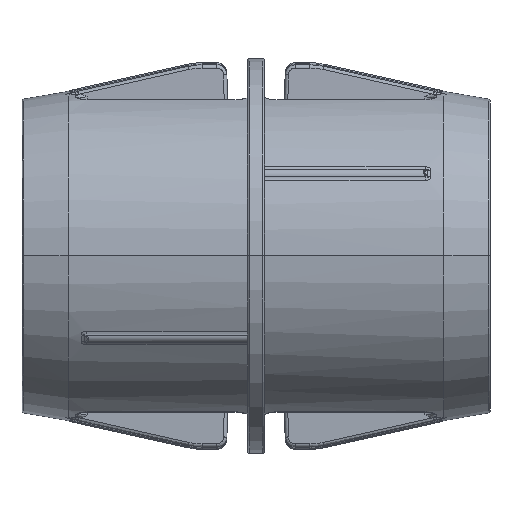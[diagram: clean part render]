
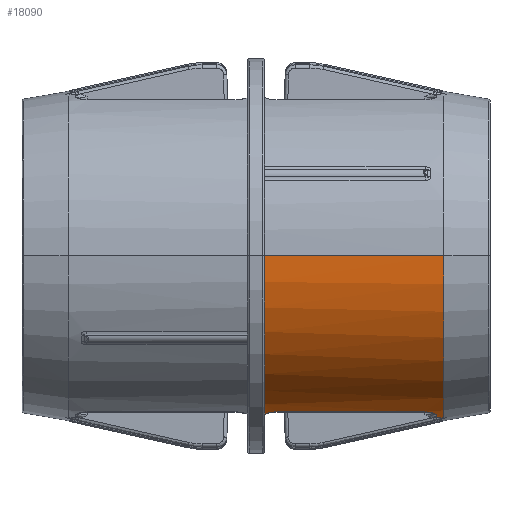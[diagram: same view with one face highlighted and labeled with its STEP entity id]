
A CAD part, top view. The second image highlights one B-rep face of the part: STEP entity #18090.
In plain terms, the highlighted cylindrical face has radius 20.25 mm (diameter 40.5 mm), a partial arc.
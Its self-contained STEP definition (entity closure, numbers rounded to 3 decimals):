
#380 = CARTESIAN_POINT ( 'NONE',  ( 22.167, -19.859, 3.959 ) ) ;
#485 = B_SPLINE_CURVE_WITH_KNOTS ( 'NONE', 3,
 ( #12324, #1466, #4711, #8042, #11059, #19136, #12639, #12843 ),
 .UNSPECIFIED., .F., .F.,
 ( 4, 2, 2, 4 ),
 ( 0., 0., 0., 0. ),
 .UNSPECIFIED. ) ;
#496 = VERTEX_POINT ( 'NONE', #14885 ) ;
#585 = VERTEX_POINT ( 'NONE', #20224 ) ;
#614 = LINE ( 'NONE', #13875, #14497 ) ;
#1073 = CARTESIAN_POINT ( 'NONE',  ( 21.822, -19.857, 3.969 ) ) ;
#1143 = CARTESIAN_POINT ( 'NONE',  ( 2.436, -19.164, 6.541 ) ) ;
#1265 = CARTESIAN_POINT ( 'NONE',  ( 21.348, -19.199, 6.441 ) ) ;
#1385 = CYLINDRICAL_SURFACE ( 'NONE', #6144, 20.25 ) ;
#1466 = CARTESIAN_POINT ( 'NONE',  ( 22.77, -19.877, 3.868 ) ) ;
#1722 = EDGE_CURVE ( 'NONE', #5992, #9117, #485, .T. ) ;
#1943 = EDGE_CURVE ( 'NONE', #4887, #19420, #13650, .T. ) ;
#2335 = CARTESIAN_POINT ( 'NONE',  ( -64.007, 0., 20.25 ) ) ;
#2384 = ORIENTED_EDGE ( 'NONE', *, *, #20043, .F. ) ;
#2560 = CARTESIAN_POINT ( 'NONE',  ( 23.079, 0., 20.25 ) ) ;
#2611 = CARTESIAN_POINT ( 'NONE',  ( 1.863, -19.211, 6.403 ) ) ;
#2818 = CARTESIAN_POINT ( 'NONE',  ( 2.003, -19.194, 6.455 ) ) ;
#2945 = CARTESIAN_POINT ( 'NONE',  ( 22.167, -19.859, 3.959 ) ) ;
#3900 = ORIENTED_EDGE ( 'NONE', *, *, #5319, .T. ) ;
#4005 = DIRECTION ( 'NONE',  ( 0., 0., 1. ) ) ;
#4499 = CARTESIAN_POINT ( 'NONE',  ( 22., -19.392, 5.84 ) ) ;
#4711 = CARTESIAN_POINT ( 'NONE',  ( 22.836, -19.881, 3.849 ) ) ;
#4887 = VERTEX_POINT ( 'NONE', #14088 ) ;
#4964 = CARTESIAN_POINT ( 'NONE',  ( -64.007, -19.857, 3.969 ) ) ;
#4988 = CARTESIAN_POINT ( 'NONE',  ( 20.75, -19.164, 6.541 ) ) ;
#5018 = CARTESIAN_POINT ( 'NONE',  ( 22.079, -19.73, 4.564 ) ) ;
#5319 = EDGE_CURVE ( 'NONE', #18751, #17566, #10447, .T. ) ;
#5485 = B_SPLINE_CURVE_WITH_KNOTS ( 'NONE', 3,
 ( #7513, #13904, #1265, #12414, #4499, #10848, #9801, #5018, #6472, #14624, #13050, #14422 ),
 .UNSPECIFIED., .F., .F.,
 ( 4, 2, 2, 2, 2, 4 ),
 ( 0., 0.001, 0.002, 0.003, 0.003, 0.004 ),
 .UNSPECIFIED. ) ;
#5534 = CARTESIAN_POINT ( 'NONE',  ( 1.07, -19.407, 5.781 ) ) ;
#5872 = VECTOR ( 'NONE', #16137, 1000. ) ;
#5992 = VERTEX_POINT ( 'NONE', #9877 ) ;
#6011 = VERTEX_POINT ( 'NONE', #4988 ) ;
#6038 = EDGE_CURVE ( 'NONE', #11297, #5992, #17065, .T. ) ;
#6099 = DIRECTION ( 'NONE',  ( -1., 0., 0. ) ) ;
#6144 = AXIS2_PLACEMENT_3D ( 'NONE', #14444, #9212, #19057 ) ;
#6183 = CARTESIAN_POINT ( 'NONE',  ( 21.938, -19.857, 3.969 ) ) ;
#6472 = CARTESIAN_POINT ( 'NONE',  ( 22.018, -19.761, 4.426 ) ) ;
#6841 = CIRCLE ( 'NONE', #16194, 20.25 ) ;
#6874 = EDGE_CURVE ( 'NONE', #8200, #6011, #614, .T. ) ;
#7019 = DIRECTION ( 'NONE',  ( -1., 0., 0. ) ) ;
#7196 = CARTESIAN_POINT ( 'NONE',  ( 2.29, -19.17, 6.524 ) ) ;
#7222 = CARTESIAN_POINT ( 'NONE',  ( 21.822, -19.857, 3.969 ) ) ;
#7227 = DIRECTION ( 'NONE',  ( -1., 0., 0. ) ) ;
#7234 = ORIENTED_EDGE ( 'NONE', *, *, #14837, .T. ) ;
#7513 = CARTESIAN_POINT ( 'NONE',  ( 20.75, -19.164, 6.541 ) ) ;
#7764 = DIRECTION ( 'NONE',  ( 0., 0., 1. ) ) ;
#7974 = AXIS2_PLACEMENT_3D ( 'NONE', #11725, #7019, #4005 ) ;
#8042 = CARTESIAN_POINT ( 'NONE',  ( 22.933, -19.888, 3.811 ) ) ;
#8060 = FACE_OUTER_BOUND ( 'NONE', #11840, .T. ) ;
#8200 = VERTEX_POINT ( 'NONE', #16135 ) ;
#8241 = CARTESIAN_POINT ( 'NONE',  ( 21.817, -19.857, 3.969 ) ) ;
#9117 = VERTEX_POINT ( 'NONE', #9657 ) ;
#9212 = DIRECTION ( 'NONE',  ( -1., 0., 0. ) ) ;
#9657 = CARTESIAN_POINT ( 'NONE',  ( 23.079, -19.905, 3.721 ) ) ;
#9760 = ORIENTED_EDGE ( 'NONE', *, *, #6874, .T. ) ;
#9801 = CARTESIAN_POINT ( 'NONE',  ( 22.194, -19.629, 4.985 ) ) ;
#9877 = CARTESIAN_POINT ( 'NONE',  ( 22.703, -19.874, 3.885 ) ) ;
#10053 = ORIENTED_EDGE ( 'NONE', *, *, #11469, .F. ) ;
#10105 = CARTESIAN_POINT ( 'NONE',  ( 21.812, -19.857, 3.969 ) ) ;
#10297 = CARTESIAN_POINT ( 'NONE',  ( 1.07, 0., 0. ) ) ;
#10320 = CARTESIAN_POINT ( 'NONE',  ( 1.48, -19.281, 6.19 ) ) ;
#10447 = LINE ( 'NONE', #2335, #13568 ) ;
#10704 = ORIENTED_EDGE ( 'NONE', *, *, #20315, .T. ) ;
#10848 = CARTESIAN_POINT ( 'NONE',  ( 22.185, -19.549, 5.289 ) ) ;
#10878 = B_SPLINE_CURVE_WITH_KNOTS ( 'NONE', 3,
 ( #1073, #6183, #17149, #2945 ),
 .UNSPECIFIED., .F., .F.,
 ( 4, 4 ),
 ( 0., 0. ),
 .UNSPECIFIED. ) ;
#11059 = CARTESIAN_POINT ( 'NONE',  ( 22.965, -19.891, 3.797 ) ) ;
#11297 = VERTEX_POINT ( 'NONE', #16767 ) ;
#11469 = EDGE_CURVE ( 'NONE', #4887, #496, #19296, .T. ) ;
#11725 = CARTESIAN_POINT ( 'NONE',  ( 23.079, 0., 0. ) ) ;
#11840 = EDGE_LOOP ( 'NONE', ( #16031, #3900, #2384, #7234, #9760, #14804, #10053, #13824, #10704, #18962, #18026 ) ) ;
#12324 = CARTESIAN_POINT ( 'NONE',  ( 22.703, -19.874, 3.885 ) ) ;
#12414 = CARTESIAN_POINT ( 'NONE',  ( 21.825, -19.315, 6.086 ) ) ;
#12639 = CARTESIAN_POINT ( 'NONE',  ( 23.055, -19.901, 3.746 ) ) ;
#12843 = CARTESIAN_POINT ( 'NONE',  ( 23.079, -19.905, 3.721 ) ) ;
#13025 = EDGE_CURVE ( 'NONE', #6011, #496, #5485, .T. ) ;
#13050 = CARTESIAN_POINT ( 'NONE',  ( 21.759, -19.838, 4.065 ) ) ;
#13053 = CARTESIAN_POINT ( 'NONE',  ( 21.807, -19.857, 3.969 ) ) ;
#13568 = VECTOR ( 'NONE', #7227, 1000. ) ;
#13650 = B_SPLINE_CURVE_WITH_KNOTS ( 'NONE', 3,
 ( #13053, #10105, #8241, #17866 ),
 .UNSPECIFIED., .F., .F.,
 ( 4, 4 ),
 ( 0., 0. ),
 .UNSPECIFIED. ) ;
#13824 = ORIENTED_EDGE ( 'NONE', *, *, #1943, .T. ) ;
#13875 = CARTESIAN_POINT ( 'NONE',  ( -64.007, -19.164, 6.541 ) ) ;
#13890 = CARTESIAN_POINT ( 'NONE',  ( 1.257, -19.34, 6.002 ) ) ;
#13904 = CARTESIAN_POINT ( 'NONE',  ( 21.054, -19.164, 6.541 ) ) ;
#13909 = B_SPLINE_CURVE_WITH_KNOTS ( 'NONE', 3,
 ( #5534, #18289, #13890, #10320, #16920, #2611, #2818, #7196, #1143, #16805 ),
 .UNSPECIFIED., .F., .F.,
 ( 4, 2, 2, 2, 4 ),
 ( 0., 0., 0.001, 0.001, 0.002 ),
 .UNSPECIFIED. ) ;
#14088 = CARTESIAN_POINT ( 'NONE',  ( 21.807, -19.857, 3.969 ) ) ;
#14209 = CARTESIAN_POINT ( 'NONE',  ( 1.07, 0., 20.25 ) ) ;
#14422 = CARTESIAN_POINT ( 'NONE',  ( 21.643, -19.857, 3.969 ) ) ;
#14444 = CARTESIAN_POINT ( 'NONE',  ( -64.007, 0., 0. ) ) ;
#14492 = CARTESIAN_POINT ( 'NONE',  ( 22.348, -19.862, 3.948 ) ) ;
#14497 = VECTOR ( 'NONE', #15541, 1000. ) ;
#14599 = CARTESIAN_POINT ( 'NONE',  ( 22.527, -19.866, 3.928 ) ) ;
#14624 = CARTESIAN_POINT ( 'NONE',  ( 21.859, -19.815, 4.178 ) ) ;
#14804 = ORIENTED_EDGE ( 'NONE', *, *, #13025, .T. ) ;
#14837 = EDGE_CURVE ( 'NONE', #585, #8200, #13909, .T. ) ;
#14885 = CARTESIAN_POINT ( 'NONE',  ( 21.643, -19.857, 3.969 ) ) ;
#15357 = EDGE_CURVE ( 'NONE', #9117, #18751, #16312, .T. ) ;
#15541 = DIRECTION ( 'NONE',  ( 1., 0., 0. ) ) ;
#16031 = ORIENTED_EDGE ( 'NONE', *, *, #15357, .T. ) ;
#16135 = CARTESIAN_POINT ( 'NONE',  ( 2.586, -19.164, 6.541 ) ) ;
#16137 = DIRECTION ( 'NONE',  ( -1., 0., 0. ) ) ;
#16194 = AXIS2_PLACEMENT_3D ( 'NONE', #10297, #6099, #7764 ) ;
#16312 = CIRCLE ( 'NONE', #7974, 20.25 ) ;
#16767 = CARTESIAN_POINT ( 'NONE',  ( 22.167, -19.859, 3.959 ) ) ;
#16805 = CARTESIAN_POINT ( 'NONE',  ( 2.586, -19.164, 6.541 ) ) ;
#16920 = CARTESIAN_POINT ( 'NONE',  ( 1.603, -19.255, 6.271 ) ) ;
#17065 = B_SPLINE_CURVE_WITH_KNOTS ( 'NONE', 3,
 ( #380, #14492, #14599, #19412 ),
 .UNSPECIFIED., .F., .F.,
 ( 4, 4 ),
 ( 0., 0.001 ),
 .UNSPECIFIED. ) ;
#17149 = CARTESIAN_POINT ( 'NONE',  ( 22.053, -19.858, 3.966 ) ) ;
#17566 = VERTEX_POINT ( 'NONE', #14209 ) ;
#17866 = CARTESIAN_POINT ( 'NONE',  ( 21.822, -19.857, 3.969 ) ) ;
#18026 = ORIENTED_EDGE ( 'NONE', *, *, #1722, .T. ) ;
#18090 = ADVANCED_FACE ( 'NONE', ( #8060 ), #1385, .T. ) ;
#18289 = CARTESIAN_POINT ( 'NONE',  ( 1.157, -19.373, 5.897 ) ) ;
#18751 = VERTEX_POINT ( 'NONE', #2560 ) ;
#18962 = ORIENTED_EDGE ( 'NONE', *, *, #6038, .T. ) ;
#19057 = DIRECTION ( 'NONE',  ( 0., 0., 1. ) ) ;
#19136 = CARTESIAN_POINT ( 'NONE',  ( 23.025, -19.897, 3.765 ) ) ;
#19296 = LINE ( 'NONE', #4964, #5872 ) ;
#19412 = CARTESIAN_POINT ( 'NONE',  ( 22.703, -19.874, 3.885 ) ) ;
#19420 = VERTEX_POINT ( 'NONE', #7222 ) ;
#20043 = EDGE_CURVE ( 'NONE', #585, #17566, #6841, .T. ) ;
#20224 = CARTESIAN_POINT ( 'NONE',  ( 1.07, -19.407, 5.781 ) ) ;
#20315 = EDGE_CURVE ( 'NONE', #19420, #11297, #10878, .T. ) ;
